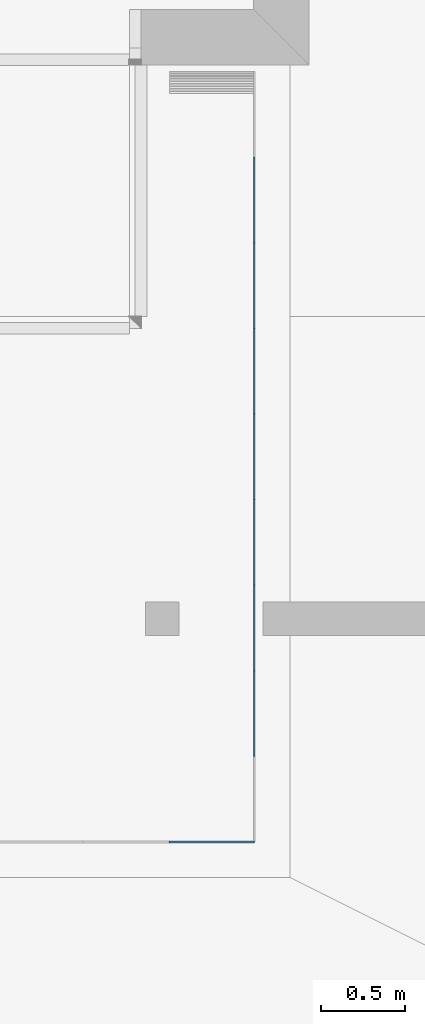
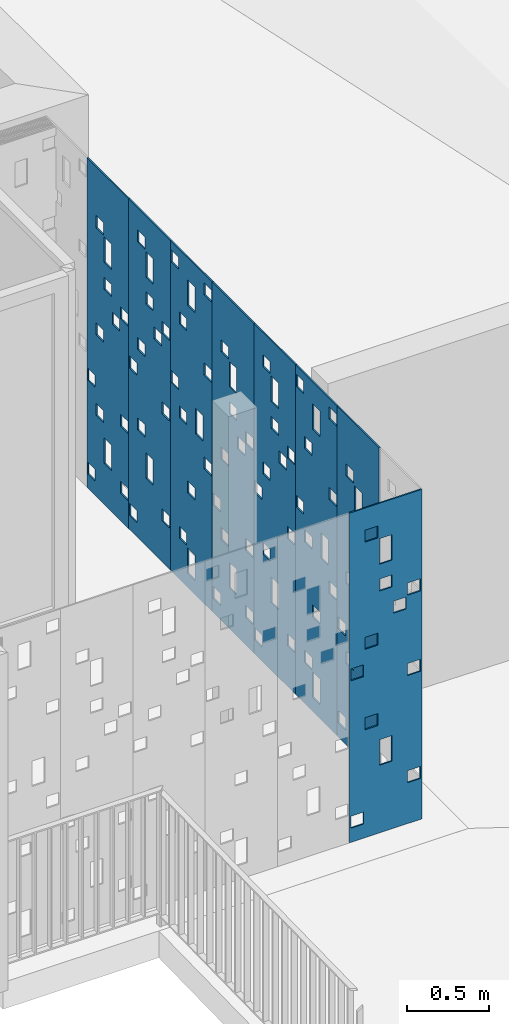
# One storey, part 8 of 51: 8 beams.
"""IFC2X3 building model written with IfcOpenShell, lengths in metres."""

from ifc_helpers import new_model, entity, si_unit, converted_unit, derived_unit, direction, frame, origin, place, context, subcontext, project, spatial, polyline, outline, extrude, material, type_object, element, save


model = new_model("IFC2X3")

# Units and contexts
model_context = context("Model", 3, precision=1e-05, world=origin(), true_north=direction((6.123031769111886e-17, 1.0)))
body_context = subcontext(model_context, "Body", "Model", "MODEL_VIEW")
ifc_project = project(units=[si_unit("LENGTHUNIT", "METRE"), si_unit("AREAUNIT", "SQUARE_METRE"), si_unit("VOLUMEUNIT", "CUBIC_METRE"), converted_unit("PLANEANGLEUNIT", "DEGREE", entity("IfcRatioMeasure", 0.017453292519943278), si_unit("PLANEANGLEUNIT", "RADIAN"), dimensions=[0, 0, 0, 0, 0, 0, 0]), si_unit("MASSUNIT", "GRAM", prefix="KILO"), derived_unit("MASSDENSITYUNIT", [(si_unit("MASSUNIT", "GRAM", prefix="KILO"), 1), (si_unit("LENGTHUNIT", "METRE"), -3)]), derived_unit("MOMENTOFINERTIAUNIT", [(si_unit("LENGTHUNIT", "METRE"), 4)]), si_unit("TIMEUNIT", "SECOND"), si_unit("FREQUENCYUNIT", "HERTZ"), si_unit("THERMODYNAMICTEMPERATUREUNIT", "DEGREE_CELSIUS"), derived_unit("THERMALTRANSMITTANCEUNIT", [(si_unit("MASSUNIT", "GRAM", prefix="KILO"), 1), (si_unit("THERMODYNAMICTEMPERATUREUNIT", "KELVIN"), -1), (si_unit("TIMEUNIT", "SECOND"), -3)]), derived_unit("THERMALCONDUCTANCEUNIT", [(si_unit("MASSUNIT", "GRAM", prefix="KILO"), 1), (si_unit("LENGTHUNIT", "METRE"), 1), (si_unit("THERMODYNAMICTEMPERATUREUNIT", "KELVIN"), -1), (si_unit("TIMEUNIT", "SECOND"), -3)]), derived_unit("VOLUMETRICFLOWRATEUNIT", [(si_unit("LENGTHUNIT", "METRE"), 3), (si_unit("TIMEUNIT", "SECOND"), -1)]), derived_unit("MASSFLOWRATEUNIT", [(si_unit("MASSUNIT", "GRAM", prefix="KILO"), 1), (si_unit("TIMEUNIT", "SECOND"), -1)]), derived_unit("ROTATIONALFREQUENCYUNIT", [(si_unit("TIMEUNIT", "SECOND"), -1)]), si_unit("ELECTRICCURRENTUNIT", "AMPERE"), si_unit("ELECTRICVOLTAGEUNIT", "VOLT"), si_unit("POWERUNIT", "WATT"), si_unit("FORCEUNIT", "NEWTON", prefix="KILO"), si_unit("ILLUMINANCEUNIT", "LUX"), si_unit("LUMINOUSFLUXUNIT", "LUMEN"), si_unit("LUMINOUSINTENSITYUNIT", "CANDELA"), derived_unit("USERDEFINED", [(si_unit("MASSUNIT", "GRAM", prefix="KILO"), -1), (si_unit("LENGTHUNIT", "METRE"), -2), (si_unit("TIMEUNIT", "SECOND"), 3), (si_unit("LUMINOUSFLUXUNIT", "LUMEN"), 1)]), derived_unit("USERDEFINED", [(si_unit("MASSUNIT", "GRAM", prefix="KILO"), 1), (si_unit("LENGTHUNIT", "METRE"), 3), (si_unit("TIMEUNIT", "SECOND"), -3), (si_unit("ELECTRICCURRENTUNIT", "AMPERE"), -2)]), derived_unit("USERDEFINED", [(si_unit("LENGTHUNIT", "METRE"), 2), (si_unit("TIMEUNIT", "SECOND"), -2)]), derived_unit("SOUNDPOWERUNIT", [(si_unit("MASSUNIT", "GRAM", prefix="KILO"), 1), (si_unit("LENGTHUNIT", "METRE"), 2), (si_unit("TIMEUNIT", "SECOND"), -3)]), derived_unit("SOUNDPRESSUREUNIT", [(si_unit("MASSUNIT", "GRAM", prefix="KILO"), 1), (si_unit("LENGTHUNIT", "METRE"), -1), (si_unit("TIMEUNIT", "SECOND"), -2)]), derived_unit("LINEARVELOCITYUNIT", [(si_unit("LENGTHUNIT", "METRE"), 1), (si_unit("TIMEUNIT", "SECOND"), -1)]), si_unit("PRESSUREUNIT", "PASCAL"), derived_unit("USERDEFINED", [(si_unit("LENGTHUNIT", "METRE"), -2), (si_unit("MASSUNIT", "GRAM", prefix="KILO"), 1), (si_unit("TIMEUNIT", "SECOND"), -2)]), derived_unit("LINEARFORCEUNIT", [(si_unit("MASSUNIT", "GRAM", prefix="KILO"), 1), (si_unit("LENGTHUNIT", "METRE"), 1), (si_unit("TIMEUNIT", "SECOND"), -2), (si_unit("LENGTHUNIT", "METRE"), -1)]), derived_unit("PLANARFORCEUNIT", [(si_unit("MASSUNIT", "GRAM", prefix="KILO"), 1), (si_unit("LENGTHUNIT", "METRE"), 1), (si_unit("TIMEUNIT", "SECOND"), -2), (si_unit("LENGTHUNIT", "METRE"), -2)]), derived_unit("SPECIFICHEATCAPACITYUNIT", [(si_unit("LENGTHUNIT", "METRE"), 2), (si_unit("TIMEUNIT", "SECOND"), -2), (si_unit("THERMODYNAMICTEMPERATUREUNIT", "KELVIN"), -1)]), derived_unit("VAPORPERMEABILITYUNIT", [(si_unit("TIMEUNIT", "SECOND"), 1), (si_unit("LENGTHUNIT", "METRE"), -1)]), derived_unit("DYNAMICVISCOSITYUNIT", [(si_unit("MASSUNIT", "GRAM", prefix="KILO"), 1), (si_unit("LENGTHUNIT", "METRE"), -1), (si_unit("TIMEUNIT", "SECOND"), -1)]), derived_unit("THERMALEXPANSIONCOEFFICIENTUNIT", [(si_unit("THERMODYNAMICTEMPERATUREUNIT", "KELVIN"), -1)])], contexts=[model_context])

# Site, building, storey
site_placement = place(None, origin())
site = spatial("IfcSite", under=ifc_project, at=site_placement, Name="Default", CompositionType="ELEMENT")
building_placement = place(site_placement, origin())
building = spatial("IfcBuilding", under=site, at=building_placement, CompositionType="ELEMENT")
storey_placement = place(building_placement, frame((0.0, 0.0, 3.06)))
storey = spatial("IfcBuildingStorey", under=building, at=storey_placement, Name="ÉTAGE", CompositionType="ELEMENT", Elevation=3.06)

# Beams
ifc_material = material(Name="Peinture - Gris foncé")
beam_type_1 = type_object("IfcBeamType", Name="Poutre-017 459277:Poutre-017 459277", PredefinedType="NOTDEFINED")
beam_1_placement = place(storey_placement, origin())
element("IfcBeam", 1, at=beam_1_placement, inside=storey, type_object=beam_type_1, material=ifc_material, Name="Poutre-017", ObjectType="Poutre-017 459277:Poutre-017 459277", context=body_context, shape_type="SweptSolid", body=[
    extrude(outline(polyline([(-0.2550000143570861, -1.2299999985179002), (0.2550000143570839, -1.2299999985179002), (0.2550000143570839, 1.2299999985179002), (-0.2550000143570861, 1.2299999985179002), (-0.2550000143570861, -1.2299999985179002)]), holes=[polyline([(0.1549999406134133, -0.33499998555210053), (0.24500001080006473, -0.33499998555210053), (0.24500001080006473, -0.42500001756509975), (0.1549999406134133, -0.42500001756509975), (0.1549999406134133, -0.33499998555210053)]), polyline([(0.24500001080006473, -1.1249999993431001), (0.1549999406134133, -1.1249999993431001), (0.1549999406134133, -1.0349999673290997), (0.24500001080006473, -1.0349999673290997), (0.24500001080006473, -1.1249999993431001)]), polyline([(0.05499994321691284, -0.6250000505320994), (0.05499994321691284, -0.5349999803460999), (0.14499997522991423, -0.5349999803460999), (0.14499997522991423, -0.6250000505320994), (0.05499994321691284, -0.6250000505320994)]), polyline([(0.04499993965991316, -0.9250000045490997), (-0.04499997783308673, -0.9250000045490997), (-0.04499997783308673, -0.7350000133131), (0.04499993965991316, -0.7350000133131), (0.04499993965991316, -0.9250000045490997)]), polyline([(-0.24500001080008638, -0.5250000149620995), (-0.24500001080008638, -0.4349999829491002), (-0.15499997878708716, -0.4349999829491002), (-0.15499997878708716, -0.5250000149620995), (-0.24500001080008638, -0.5250000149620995)]), polyline([(-0.24500001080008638, -1.0250000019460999), (-0.24500001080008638, -0.9349999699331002), (-0.15499997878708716, -0.9349999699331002), (-0.15499997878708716, -1.0250000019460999), (-0.24500001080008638, -1.0250000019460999)]), polyline([(0.05499994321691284, 0.8649999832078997), (0.14499997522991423, 0.8649999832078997), (0.14499997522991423, 0.7749999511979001), (0.05499994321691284, 0.7749999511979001), (0.05499994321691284, 0.8649999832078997)]), polyline([(0.05499994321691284, -0.024999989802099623), (0.05499994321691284, 0.06500004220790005), (0.14499997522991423, 0.06500004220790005), (0.14499997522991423, -0.024999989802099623), (0.05499994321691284, -0.024999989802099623)]), polyline([(0.04499993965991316, 0.3749999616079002), (-0.04499997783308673, 0.3749999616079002), (-0.04499997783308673, 0.4650000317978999), (0.04499993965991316, 0.4650000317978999), (0.04499993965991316, 0.3749999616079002)]), polyline([(-0.04499997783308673, 0.7650000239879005), (0.04499993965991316, 0.7650000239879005), (0.04499993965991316, 0.5749999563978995), (-0.04499997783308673, 0.5749999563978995), (-0.04499997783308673, 0.7650000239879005)]), polyline([(-0.14499997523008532, 0.2649999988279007), (-0.055000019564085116, 0.2649999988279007), (-0.055000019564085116, 0.17499996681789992), (-0.14499997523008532, 0.17499996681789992), (-0.14499997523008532, 0.2649999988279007)]), polyline([(-0.24500001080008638, 0.3649999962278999), (-0.15499997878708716, 0.3649999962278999), (-0.15499997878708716, 0.27499996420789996), (-0.24500001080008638, 0.27499996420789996), (-0.24500001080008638, 0.3649999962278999)])]), frame((151.970752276, 11.682209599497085, 2.4600000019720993), z_axis=(1.0, 0.0, 0.0), x_axis=(0.0, 1.0, 0.0)), (0.0, 0.0, 1.0), 0.009999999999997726),
])
beam_2_placement = place(storey_placement, origin())
element("IfcBeam", 2, at=beam_2_placement, inside=storey, type_object=beam_type_1, material=ifc_material, Name="Poutre-017", ObjectType="Poutre-017 459277:Poutre-017 459277", context=body_context, shape_type="SweptSolid", body=[
    extrude(outline(polyline([(-0.25500001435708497, -1.2299999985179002), (0.25500001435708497, -1.2299999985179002), (0.25500001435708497, 1.2299999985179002), (-0.25500001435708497, 1.2299999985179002), (-0.25500001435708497, -1.2299999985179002)]), holes=[polyline([(0.15499994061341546, -0.33499998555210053), (0.24500001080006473, -0.33499998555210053), (0.24500001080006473, -0.42500001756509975), (0.15499994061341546, -0.42500001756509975), (0.15499994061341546, -0.33499998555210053)]), polyline([(0.24500001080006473, -1.1249999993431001), (0.15499994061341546, -1.1249999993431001), (0.15499994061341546, -1.0349999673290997), (0.24500001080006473, -1.0349999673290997), (0.24500001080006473, -1.1249999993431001)]), polyline([(0.054999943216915, -0.6250000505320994), (0.054999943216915, -0.5349999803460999), (0.1449999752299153, -0.5349999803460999), (0.1449999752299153, -0.6250000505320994), (0.054999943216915, -0.6250000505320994)]), polyline([(0.044999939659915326, -0.9250000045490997), (-0.04499997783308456, -0.9250000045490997), (-0.04499997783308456, -0.7350000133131), (0.044999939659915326, -0.7350000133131), (0.044999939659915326, -0.9250000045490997)]), polyline([(-0.2450000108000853, -0.5250000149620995), (-0.2450000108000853, -0.4349999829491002), (-0.154999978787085, -0.4349999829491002), (-0.154999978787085, -0.5250000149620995), (-0.2450000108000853, -0.5250000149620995)]), polyline([(-0.2450000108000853, -1.0250000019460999), (-0.2450000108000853, -0.9349999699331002), (-0.154999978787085, -0.9349999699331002), (-0.154999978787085, -1.0250000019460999), (-0.2450000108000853, -1.0250000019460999)]), polyline([(0.054999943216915, 0.8649999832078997), (0.1449999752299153, 0.8649999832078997), (0.1449999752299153, 0.7749999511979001), (0.054999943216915, 0.7749999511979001), (0.054999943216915, 0.8649999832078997)]), polyline([(0.054999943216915, -0.024999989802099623), (0.054999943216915, 0.06500004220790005), (0.1449999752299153, 0.06500004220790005), (0.1449999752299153, -0.024999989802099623), (0.054999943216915, -0.024999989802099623)]), polyline([(0.044999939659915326, 0.3749999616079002), (-0.04499997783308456, 0.3749999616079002), (-0.04499997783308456, 0.4650000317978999), (0.044999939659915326, 0.4650000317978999), (0.044999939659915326, 0.3749999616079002)]), polyline([(-0.04499997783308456, 0.7650000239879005), (0.044999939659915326, 0.7650000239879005), (0.044999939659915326, 0.5749999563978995), (-0.04499997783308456, 0.5749999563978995), (-0.04499997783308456, 0.7650000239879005)]), polyline([(-0.14499997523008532, 0.2649999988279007), (-0.055000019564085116, 0.2649999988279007), (-0.055000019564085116, 0.17499996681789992), (-0.14499997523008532, 0.17499996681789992), (-0.14499997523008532, 0.2649999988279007)]), polyline([(-0.2450000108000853, 0.3649999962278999), (-0.154999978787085, 0.3649999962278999), (-0.154999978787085, 0.27499996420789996), (-0.2450000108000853, 0.27499996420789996), (-0.2450000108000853, 0.3649999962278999)])]), frame((151.970752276, 8.622209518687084, 2.4600000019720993), z_axis=(1.0, 0.0, 0.0), x_axis=(0.0, 1.0, 0.0)), (0.0, 0.0, 1.0), 0.009999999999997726),
])
beam_3_placement = place(storey_placement, origin())
element("IfcBeam", 3, at=beam_3_placement, inside=storey, type_object=beam_type_1, material=ifc_material, Name="Poutre-017", ObjectType="Poutre-017 459277:Poutre-017 459277", context=body_context, shape_type="SweptSolid", body=[
    extrude(outline(polyline([(-0.2550000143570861, -1.2299999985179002), (0.2550000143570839, -1.2299999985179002), (0.2550000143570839, 1.2299999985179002), (-0.2550000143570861, 1.2299999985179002), (-0.2550000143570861, -1.2299999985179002)]), holes=[polyline([(0.1549999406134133, -0.33499998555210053), (0.24500001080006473, -0.33499998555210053), (0.24500001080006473, -0.42500001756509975), (0.1549999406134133, -0.42500001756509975), (0.1549999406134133, -0.33499998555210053)]), polyline([(0.24500001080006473, -1.1249999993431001), (0.1549999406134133, -1.1249999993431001), (0.1549999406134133, -1.0349999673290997), (0.24500001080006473, -1.0349999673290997), (0.24500001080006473, -1.1249999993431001)]), polyline([(0.05499994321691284, -0.6250000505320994), (0.05499994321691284, -0.5349999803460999), (0.14499997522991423, -0.5349999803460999), (0.14499997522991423, -0.6250000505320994), (0.05499994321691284, -0.6250000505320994)]), polyline([(0.04499993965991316, -0.9250000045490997), (-0.04499997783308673, -0.9250000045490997), (-0.04499997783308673, -0.7350000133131), (0.04499993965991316, -0.7350000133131), (0.04499993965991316, -0.9250000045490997)]), polyline([(-0.24500001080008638, -0.5250000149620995), (-0.24500001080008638, -0.4349999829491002), (-0.15499997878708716, -0.4349999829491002), (-0.15499997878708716, -0.5250000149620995), (-0.24500001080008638, -0.5250000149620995)]), polyline([(-0.24500001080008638, -1.0250000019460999), (-0.24500001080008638, -0.9349999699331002), (-0.15499997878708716, -0.9349999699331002), (-0.15499997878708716, -1.0250000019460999), (-0.24500001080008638, -1.0250000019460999)]), polyline([(0.05499994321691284, 0.8649999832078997), (0.14499997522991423, 0.8649999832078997), (0.14499997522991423, 0.7749999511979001), (0.05499994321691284, 0.7749999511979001), (0.05499994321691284, 0.8649999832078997)]), polyline([(0.05499994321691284, -0.024999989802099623), (0.05499994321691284, 0.06500004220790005), (0.14499997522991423, 0.06500004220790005), (0.14499997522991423, -0.024999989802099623), (0.05499994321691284, -0.024999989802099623)]), polyline([(0.04499993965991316, 0.3749999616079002), (-0.04499997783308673, 0.3749999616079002), (-0.04499997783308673, 0.4650000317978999), (0.04499993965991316, 0.4650000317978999), (0.04499993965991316, 0.3749999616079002)]), polyline([(-0.04499997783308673, 0.7650000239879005), (0.04499993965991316, 0.7650000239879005), (0.04499993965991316, 0.5749999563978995), (-0.04499997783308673, 0.5749999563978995), (-0.04499997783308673, 0.7650000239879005)]), polyline([(-0.14499997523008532, 0.2649999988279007), (-0.055000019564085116, 0.2649999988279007), (-0.055000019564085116, 0.17499996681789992), (-0.14499997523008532, 0.17499996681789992), (-0.14499997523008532, 0.2649999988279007)]), polyline([(-0.24500001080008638, 0.3649999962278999), (-0.15499997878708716, 0.3649999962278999), (-0.15499997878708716, 0.27499996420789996), (-0.24500001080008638, 0.27499996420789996), (-0.24500001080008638, 0.3649999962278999)])]), frame((151.970752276, 10.152209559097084, 2.4600000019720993), z_axis=(1.0, 0.0, 0.0), x_axis=(0.0, 1.0, 0.0)), (0.0, 0.0, 1.0), 0.009999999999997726),
])
beam_type_2 = type_object("IfcBeamType", Name="Poutre-017 459324:Poutre-017 459324", PredefinedType="NOTDEFINED")
beam_4_placement = place(storey_placement, origin())
element("IfcBeam", 4, at=beam_4_placement, inside=storey, type_object=beam_type_2, material=ifc_material, Name="Poutre-017", ObjectType="Poutre-017 459324:Poutre-017 459324", context=body_context, shape_type="SweptSolid", body=[
    extrude(outline(polyline([(-0.2549999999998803, -1.2299999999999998), (0.2549999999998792, -1.2299999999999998), (0.2549999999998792, 1.2300000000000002), (-0.2549999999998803, 1.2300000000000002), (-0.2549999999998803, -1.2299999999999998)]), holes=[polyline([(-0.05499996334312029, 0.8349999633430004), (-0.1449999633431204, 0.8349999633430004), (-0.1449999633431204, 0.9249999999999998), (-0.05499996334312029, 0.9249999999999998), (-0.05499996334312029, 0.8349999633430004)]), polyline([(0.04499999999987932, 0.5250000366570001), (0.04499999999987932, 0.43499996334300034), (-0.04499996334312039, 0.43499996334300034), (-0.04499996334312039, 0.5250000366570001), (0.04499999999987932, 0.5250000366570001)]), polyline([(0.04499999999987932, 0.9349999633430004), (-0.04499996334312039, 0.9349999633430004), (-0.04499996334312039, 1.1250000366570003), (0.04499999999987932, 1.1250000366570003), (0.04499999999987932, 0.9349999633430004)]), polyline([(0.24499999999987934, 0.22500000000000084), (0.24499999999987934, 0.13499999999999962), (0.1549999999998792, 0.13499999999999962), (0.1549999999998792, 0.22500000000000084), (0.24499999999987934, 0.22500000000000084)]), polyline([(-0.15499996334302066, -1.0749999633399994), (-0.15499996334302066, -1.1649999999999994), (-0.24499999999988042, -1.1649999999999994), (-0.24499999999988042, -1.0749999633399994), (-0.15499996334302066, -1.0749999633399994)]), polyline([(-0.04499996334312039, -0.8750000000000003), (0.04499999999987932, -0.8750000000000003), (0.04499999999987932, -1.0649999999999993), (-0.04499996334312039, -1.0649999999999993), (-0.04499996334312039, -0.8750000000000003)]), polyline([(0.24499999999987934, -1.1649999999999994), (0.1549999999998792, -1.1649999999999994), (0.1549999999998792, -1.0749999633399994), (0.24499999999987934, -1.0749999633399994), (0.24499999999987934, -1.1649999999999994)]), polyline([(-0.15499996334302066, -0.26500003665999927), (-0.24499999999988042, -0.26500003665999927), (-0.24499999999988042, -0.1749999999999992), (-0.15499996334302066, -0.1749999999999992), (-0.15499996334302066, -0.26500003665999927)]), polyline([(-0.05499996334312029, -0.06500000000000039), (-0.1449999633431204, -0.06500000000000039), (-0.1449999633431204, 0.025000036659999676), (-0.05499996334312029, 0.025000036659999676), (-0.05499996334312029, -0.06500000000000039)]), polyline([(-0.05499996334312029, -0.7650000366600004), (-0.1449999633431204, -0.7650000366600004), (-0.1449999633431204, -0.6749999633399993), (-0.05499996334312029, -0.6749999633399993), (-0.05499996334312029, -0.7650000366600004)]), polyline([(0.14499999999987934, -0.16500003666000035), (0.055000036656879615, -0.16500003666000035), (0.055000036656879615, 0.02499999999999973), (0.14499999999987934, 0.02499999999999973), (0.14499999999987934, -0.16500003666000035)]), polyline([(0.24499999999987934, -0.4750000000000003), (0.24499999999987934, -0.5649999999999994), (0.1549999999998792, -0.5649999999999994), (0.1549999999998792, -0.4750000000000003), (0.24499999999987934, -0.4750000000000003)])]), frame((151.970752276, 9.132209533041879, 2.459999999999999), z_axis=(1.0, 0.0, 0.0), x_axis=(0.0, -1.0, 0.0)), (0.0, 0.0, 1.0), 0.009999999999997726),
])
beam_5_placement = place(storey_placement, origin())
element("IfcBeam", 5, at=beam_5_placement, inside=storey, type_object=beam_type_2, material=ifc_material, Name="Poutre-017", ObjectType="Poutre-017 459324:Poutre-017 459324", context=body_context, shape_type="SweptSolid", body=[
    extrude(outline(polyline([(-0.2549999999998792, -1.2299999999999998), (0.2549999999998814, -1.2299999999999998), (0.2549999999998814, 1.2300000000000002), (-0.2549999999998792, 1.2300000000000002), (-0.2549999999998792, -1.2299999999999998)]), holes=[polyline([(-0.054999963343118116, 0.8349999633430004), (-0.14499996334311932, 0.8349999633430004), (-0.14499996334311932, 0.9249999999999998), (-0.054999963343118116, 0.9249999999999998), (-0.054999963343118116, 0.8349999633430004)]), polyline([(0.04499999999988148, 0.5250000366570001), (0.04499999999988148, 0.43499996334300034), (-0.044999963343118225, 0.43499996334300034), (-0.044999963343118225, 0.5250000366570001), (0.04499999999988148, 0.5250000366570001)]), polyline([(0.04499999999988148, 0.9349999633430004), (-0.044999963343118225, 0.9349999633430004), (-0.044999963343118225, 1.1250000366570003), (0.04499999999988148, 1.1250000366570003), (0.04499999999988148, 0.9349999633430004)]), polyline([(0.2449999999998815, 0.22500000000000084), (0.2449999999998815, 0.13499999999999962), (0.15499999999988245, 0.13499999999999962), (0.15499999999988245, 0.22500000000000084), (0.2449999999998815, 0.22500000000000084)]), polyline([(-0.15499996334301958, -1.0749999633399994), (-0.15499996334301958, -1.1649999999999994), (-0.24499999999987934, -1.1649999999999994), (-0.24499999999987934, -1.0749999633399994), (-0.15499996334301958, -1.0749999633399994)]), polyline([(-0.044999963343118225, -0.8750000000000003), (0.04499999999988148, -0.8750000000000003), (0.04499999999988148, -1.0649999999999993), (-0.044999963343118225, -1.0649999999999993), (-0.044999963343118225, -0.8750000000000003)]), polyline([(0.2449999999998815, -1.1649999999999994), (0.15499999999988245, -1.1649999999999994), (0.15499999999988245, -1.0749999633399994), (0.2449999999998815, -1.0749999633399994), (0.2449999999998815, -1.1649999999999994)]), polyline([(-0.15499996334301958, -0.26500003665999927), (-0.24499999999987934, -0.26500003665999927), (-0.24499999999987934, -0.1749999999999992), (-0.15499996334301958, -0.1749999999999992), (-0.15499996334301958, -0.26500003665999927)]), polyline([(-0.054999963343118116, -0.06500000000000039), (-0.14499996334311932, -0.06500000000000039), (-0.14499996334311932, 0.025000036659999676), (-0.054999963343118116, 0.025000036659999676), (-0.054999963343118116, -0.06500000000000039)]), polyline([(-0.054999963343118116, -0.7650000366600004), (-0.14499996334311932, -0.7650000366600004), (-0.14499996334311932, -0.6749999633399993), (-0.054999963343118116, -0.6749999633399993), (-0.054999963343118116, -0.7650000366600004)]), polyline([(0.14499999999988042, -0.16500003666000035), (0.0550000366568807, -0.16500003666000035), (0.0550000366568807, 0.02499999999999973), (0.14499999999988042, 0.02499999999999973), (0.14499999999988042, -0.16500003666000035)]), polyline([(0.2449999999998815, -0.4750000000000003), (0.2449999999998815, -0.5649999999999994), (0.15499999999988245, -0.5649999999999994), (0.15499999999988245, -0.4750000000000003), (0.2449999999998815, -0.4750000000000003)])]), frame((151.970752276, 10.66220957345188, 2.459999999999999), z_axis=(1.0, 0.0, 0.0), x_axis=(0.0, -1.0, 0.0)), (0.0, 0.0, 1.0), 0.009999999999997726),
])
beam_type_3 = type_object("IfcBeamType", Name="Poutre-017 459230:Poutre-017 459230", PredefinedType="NOTDEFINED")
beam_6_placement = place(storey_placement, origin())
element("IfcBeam", 6, at=beam_6_placement, inside=storey, type_object=beam_type_3, material=ifc_material, Name="Poutre-017", ObjectType="Poutre-017 459230:Poutre-017 459230", context=body_context, shape_type="SweptSolid", body=[
    extrude(outline(polyline([(-0.25500000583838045, -1.2299999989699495), (0.25500000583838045, -1.2299999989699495), (0.25500000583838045, 1.22999999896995), (-0.25500000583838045, 1.22999999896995), (-0.25500000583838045, -1.2299999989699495)]), holes=[polyline([(-0.24500002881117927, 1.1250000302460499), (-0.15499996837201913, 1.1250000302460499), (-0.15499996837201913, 1.03499996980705), (-0.24500002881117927, 1.03499996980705), (-0.24500002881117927, 1.1250000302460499)]), polyline([(-0.05499996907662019, 0.4250000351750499), (-0.05499996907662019, 0.33499997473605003), (-0.14499999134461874, 0.33499997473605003), (-0.14499999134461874, 0.4250000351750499), (-0.05499996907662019, 0.4250000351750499)]), polyline([(0.04499999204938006, 0.5350000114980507), (-0.04499999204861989, 0.5350000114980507), (-0.04499999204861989, 0.7249999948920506), (0.04499999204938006, 0.7249999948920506), (0.04499999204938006, 0.5350000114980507)]), polyline([(0.24499999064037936, 0.9250000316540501), (0.24499999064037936, 0.8350000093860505), (0.15500000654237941, 0.8350000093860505), (0.15500000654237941, 0.9250000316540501), (0.24499999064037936, 0.9250000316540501)]), polyline([(0.15500000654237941, 0.12500003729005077), (0.24499999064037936, 0.12500003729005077), (0.24499999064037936, 0.03500001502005), (0.15500000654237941, 0.03500001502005), (0.15500000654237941, 0.12500003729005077)]), polyline([(-0.14499999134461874, -0.9749999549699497), (-0.05499996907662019, -0.9749999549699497), (-0.05499996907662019, -1.06499997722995), (-0.14499999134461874, -1.06499997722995), (-0.14499999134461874, -0.9749999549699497)]), polyline([(-0.24500002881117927, 0.025000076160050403), (-0.15499996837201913, 0.025000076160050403), (-0.15499996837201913, -0.06499998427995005), (-0.24500002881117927, -0.06499998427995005), (-0.24500002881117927, 0.025000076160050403)]), polyline([(-0.05499996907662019, -0.2650000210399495), (-0.14499999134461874, -0.2650000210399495), (-0.14499999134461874, -0.17499996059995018), (-0.05499996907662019, -0.17499996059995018), (-0.05499996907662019, -0.2650000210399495)]), polyline([(-0.04499999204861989, -0.5749999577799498), (0.04499999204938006, -0.5749999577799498), (0.04499999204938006, -0.6650000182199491), (-0.04499999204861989, -0.6650000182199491), (-0.04499999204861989, -0.5749999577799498)]), polyline([(0.04499999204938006, -0.7749999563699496), (0.04499999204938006, -0.965000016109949), (-0.04499999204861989, -0.965000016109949), (-0.04499999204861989, -0.7749999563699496), (0.04499999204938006, -0.7749999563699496)]), polyline([(0.14499999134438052, -0.4650000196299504), (0.05500000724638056, -0.4650000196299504), (0.05500000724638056, -0.37499995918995), (0.14499999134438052, -0.37499995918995), (0.14499999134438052, -0.4650000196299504)]), polyline([(0.24499999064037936, -0.4749999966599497), (0.24499999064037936, -0.5650000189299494), (0.15500000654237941, -0.5650000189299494), (0.15500000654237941, -0.4749999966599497), (0.24499999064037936, -0.4749999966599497)])]), frame((151.970752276, 11.17220957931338, 2.46000001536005), z_axis=(1.0, 0.0, 0.0), x_axis=(0.0, -1.0, 0.0)), (0.0, 0.0, 1.0), 0.009999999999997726),
])
beam_7_placement = place(storey_placement, origin())
element("IfcBeam", 7, at=beam_7_placement, inside=storey, type_object=beam_type_3, material=ifc_material, Name="Poutre-017", ObjectType="Poutre-017 459230:Poutre-017 459230", context=body_context, shape_type="SweptSolid", body=[
    extrude(outline(polyline([(-0.25500000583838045, -1.2299999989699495), (0.25500000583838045, -1.2299999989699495), (0.25500000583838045, 1.22999999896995), (-0.25500000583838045, 1.22999999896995), (-0.25500000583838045, -1.2299999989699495)]), holes=[polyline([(-0.24500002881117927, 1.1250000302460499), (-0.15499996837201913, 1.1250000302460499), (-0.15499996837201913, 1.03499996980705), (-0.24500002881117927, 1.03499996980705), (-0.24500002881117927, 1.1250000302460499)]), polyline([(-0.05499996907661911, 0.4250000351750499), (-0.05499996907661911, 0.33499997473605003), (-0.14499999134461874, 0.33499997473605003), (-0.14499999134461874, 0.4250000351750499), (-0.05499996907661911, 0.4250000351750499)]), polyline([(0.04499999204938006, 0.5350000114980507), (-0.04499999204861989, 0.5350000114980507), (-0.04499999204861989, 0.7249999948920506), (0.04499999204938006, 0.7249999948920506), (0.04499999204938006, 0.5350000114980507)]), polyline([(0.24499999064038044, 0.9250000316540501), (0.24499999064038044, 0.8350000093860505), (0.1550000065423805, 0.8350000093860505), (0.1550000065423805, 0.9250000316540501), (0.24499999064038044, 0.9250000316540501)]), polyline([(0.1550000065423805, 0.12500003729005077), (0.24499999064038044, 0.12500003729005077), (0.24499999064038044, 0.03500001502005), (0.1550000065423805, 0.03500001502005), (0.1550000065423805, 0.12500003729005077)]), polyline([(-0.14499999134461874, -0.9749999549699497), (-0.05499996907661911, -0.9749999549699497), (-0.05499996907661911, -1.06499997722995), (-0.14499999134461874, -1.06499997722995), (-0.14499999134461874, -0.9749999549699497)]), polyline([(-0.24500002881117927, 0.025000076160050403), (-0.15499996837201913, 0.025000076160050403), (-0.15499996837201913, -0.06499998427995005), (-0.24500002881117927, -0.06499998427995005), (-0.24500002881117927, 0.025000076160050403)]), polyline([(-0.05499996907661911, -0.2650000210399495), (-0.14499999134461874, -0.2650000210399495), (-0.14499999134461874, -0.17499996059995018), (-0.05499996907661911, -0.17499996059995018), (-0.05499996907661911, -0.2650000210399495)]), polyline([(-0.04499999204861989, -0.5749999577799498), (0.04499999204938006, -0.5749999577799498), (0.04499999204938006, -0.6650000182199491), (-0.04499999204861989, -0.6650000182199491), (-0.04499999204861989, -0.5749999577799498)]), polyline([(0.04499999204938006, -0.7749999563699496), (0.04499999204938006, -0.965000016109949), (-0.04499999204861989, -0.965000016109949), (-0.04499999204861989, -0.7749999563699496), (0.04499999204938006, -0.7749999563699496)]), polyline([(0.14499999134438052, -0.4650000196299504), (0.05500000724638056, -0.4650000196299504), (0.05500000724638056, -0.37499995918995), (0.14499999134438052, -0.37499995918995), (0.14499999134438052, -0.4650000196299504)]), polyline([(0.24499999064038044, -0.4749999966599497), (0.24499999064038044, -0.5650000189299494), (0.1550000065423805, -0.5650000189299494), (0.1550000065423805, -0.4749999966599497), (0.24499999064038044, -0.4749999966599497)])]), frame((151.970752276, 9.64220953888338, 2.46000001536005), z_axis=(1.0, 0.0, 0.0), x_axis=(0.0, -1.0, 0.0)), (0.0, 0.0, 1.0), 0.009999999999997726),
])
beam_type_4 = type_object("IfcBeamType", Name="Poutre-017 459038:Poutre-017 459038", PredefinedType="NOTDEFINED")
beam_8_placement = place(storey_placement, origin())
element("IfcBeam", 8, at=beam_8_placement, inside=storey, type_object=beam_type_4, material=ifc_material, Name="Poutre-017", ObjectType="Poutre-017 459038:Poutre-017 459038", context=body_context, shape_type="SweptSolid", body=[
    extrude(outline(polyline([(-0.25500000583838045, -1.2299999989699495), (0.25500000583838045, -1.2299999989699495), (0.25500000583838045, 1.2299999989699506), (-0.25500000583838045, 1.2299999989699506), (-0.25500000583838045, -1.2299999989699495)]), holes=[polyline([(-0.24499999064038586, -0.03500001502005), (-0.15500000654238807, -0.03500001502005), (-0.15500000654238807, -0.1250000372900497), (-0.24499999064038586, -0.1250000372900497), (-0.24499999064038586, -0.03500001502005)]), polyline([(0.1549999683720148, -1.0349999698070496), (0.24500002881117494, -1.0349999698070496), (0.24500002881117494, -1.1250000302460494), (0.1549999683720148, -1.1250000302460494), (0.1549999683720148, -1.0349999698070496)]), polyline([(0.14499999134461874, -0.33499997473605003), (0.14499999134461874, -0.4250000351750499), (0.054999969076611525, -0.4250000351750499), (0.054999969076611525, -0.33499997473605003), (0.14499999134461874, -0.33499997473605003)]), polyline([(0.04499999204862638, -0.7249999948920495), (-0.044999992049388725, -0.7249999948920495), (-0.044999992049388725, -0.5350000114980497), (0.04499999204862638, -0.5350000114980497), (0.04499999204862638, -0.7249999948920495)]), polyline([(-0.15500000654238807, -0.8350000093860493), (-0.15500000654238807, -0.9250000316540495), (-0.24499999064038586, -0.9250000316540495), (-0.24499999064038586, -0.8350000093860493), (-0.15500000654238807, -0.8350000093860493)]), polyline([(0.054999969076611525, 1.06499997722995), (0.14499999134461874, 1.06499997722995), (0.14499999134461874, 0.9749999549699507), (0.054999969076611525, 0.9749999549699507), (0.054999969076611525, 1.06499997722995)]), polyline([(0.1549999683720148, 0.06499998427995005), (0.24500002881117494, 0.06499998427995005), (0.24500002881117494, -0.02500007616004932), (0.1549999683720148, -0.02500007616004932), (0.1549999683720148, 0.06499998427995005)]), polyline([(0.14499999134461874, 0.17499996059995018), (0.054999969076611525, 0.17499996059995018), (0.054999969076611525, 0.26500002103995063), (0.14499999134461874, 0.26500002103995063), (0.14499999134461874, 0.17499996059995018)]), polyline([(-0.044999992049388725, 0.6650000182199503), (0.04499999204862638, 0.6650000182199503), (0.04499999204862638, 0.5749999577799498), (-0.044999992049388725, 0.5749999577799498), (-0.044999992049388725, 0.6650000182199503)]), polyline([(0.04499999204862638, 0.9650000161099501), (0.04499999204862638, 0.7749999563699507), (-0.044999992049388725, 0.7749999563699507), (-0.044999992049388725, 0.9650000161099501), (0.04499999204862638, 0.9650000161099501)]), polyline([(-0.05500000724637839, 0.37499995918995), (-0.14499999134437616, 0.37499995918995), (-0.14499999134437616, 0.4650000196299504), (-0.05500000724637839, 0.4650000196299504), (-0.05500000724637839, 0.37499995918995)]), polyline([(-0.15500000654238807, 0.5650000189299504), (-0.15500000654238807, 0.4749999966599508), (-0.24499999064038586, 0.4749999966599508), (-0.24499999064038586, 0.5650000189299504), (-0.15500000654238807, 0.5650000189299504)])]), frame((151.72075228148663, 7.85220950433, 2.460000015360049), z_axis=(0.0, 1.0, 0.0), x_axis=(-1.0, 0.0, 0.0)), (0.0, 0.0, 1.0), 0.009999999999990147),
])

save(model, "model.ifc")
